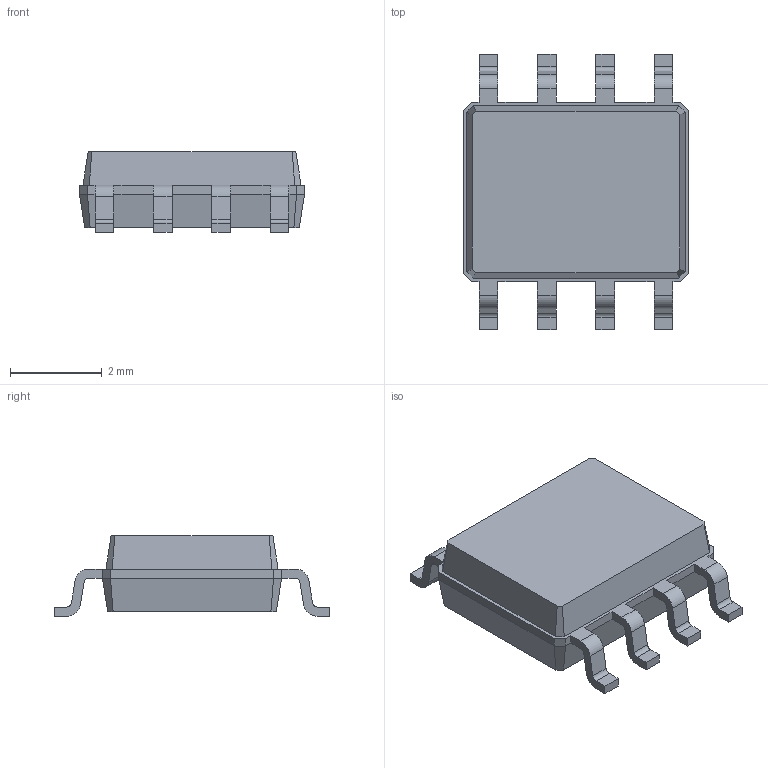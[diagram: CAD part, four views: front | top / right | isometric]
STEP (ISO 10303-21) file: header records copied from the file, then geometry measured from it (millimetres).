
FILE_DESCRIPTION(/* description */ ('STEP AP242 Edition 2','CAx-IF Rec.Pracs.---Representation and Presentation of Product Manufacturing Information (PMI)---4.0---2014-10-13','CAx-IF Rec.Pracs.---3D Tessellated Geometry---0.4---2014-09-14','2;1','CAx-IF Rec.Pracs.---User Defined Attributes---1.5---2016-08-15'),/* implementation_level */ '2;1');
FILE_NAME(/* name */ 'v2_assembly - SOIC-8_3.9x4.9mm_P1.27mm',/* time_stamp */ '2026-05-19T16:26:07Z',/* author */ (''),/* organization */ (''),/* preprocessor_version */ 'ST-DEVELOPER v20',/* originating_system */ 'ONSHAPE BY PTC INC, 1.215',/* authorisation */ ' ');
FILE_SCHEMA (('AP242_MANAGED_MODEL_BASED_3D_ENGINEERING_MIM_LF { 1 0 10303 442 3 1 4 }'));
Length unit declared in the file: metre
Products named in the file (1): SOIC-8_3.9x4.9mm_P1.27mm
Bounding box: 4.9 x 6 x 1.75 mm (x, y, z)
Volume: 30.2 mm3; surface area: 78 mm2
Topology: 1 solids, 1 shells, 131 faces, 360 edges, 232 vertices
Faces by surface type: plane 99, cylinder 32
Entity records: 4368 total; most frequent: CARTESIAN_POINT 724, ORIENTED_EDGE 720, DIRECTION 688, EDGE_CURVE 360, LINE 296, VECTOR 296, VERTEX_POINT 232, AXIS2_PLACEMENT_3D 196
